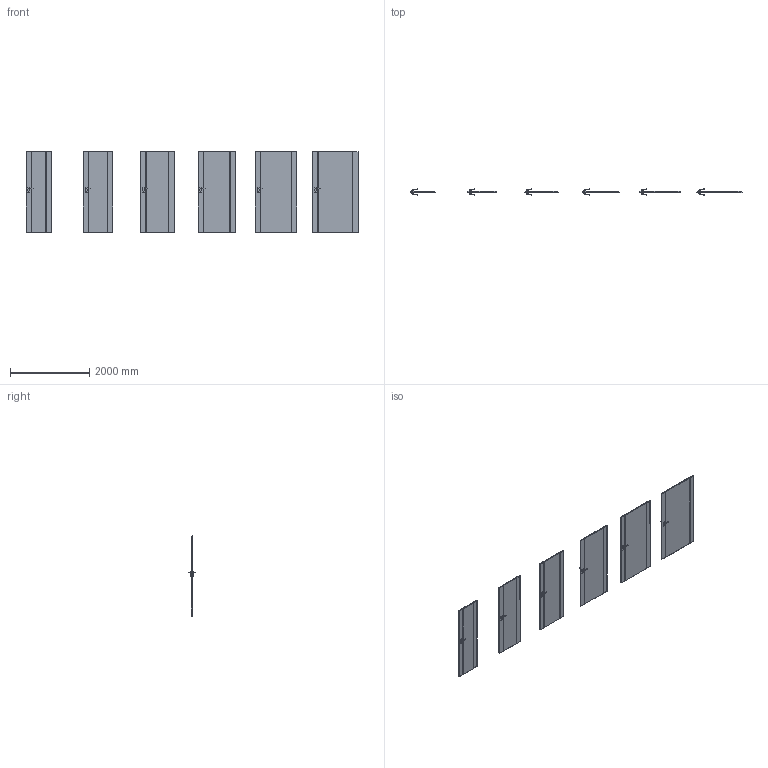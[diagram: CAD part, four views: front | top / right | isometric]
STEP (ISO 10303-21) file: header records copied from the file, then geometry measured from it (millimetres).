
FILE_DESCRIPTION(/* description */ (''),/* implementation_level */ '2;1');
FILE_NAME(/* name */ '049674_A_2-Skrzydło VECTOR A_ polska norma _PN__ przylgowe..stp',/* time_stamp */ '2024-02-07T08:12:11+01:00',/* author */ (''),/* organization */ (''),/* preprocessor_version */ 'ST-DEVELOPER v16',/* originating_system */ 'SIEMENS PLM Software NX 11.0',/* authorisation */ '');
FILE_SCHEMA (('AUTOMOTIVE_DESIGN { 1 0 10303 214 3 1 1 1 }'));
Length unit declared in the file: millimetre
Products named in the file (1): bkni2F140504h4o0
Bounding box: 8394 x 153.27 x 2030 mm (x, y, z)
Volume: 418357459.2 mm3; surface area: 23488587.4 mm2
Topology: 30 solids, 30 shells, 1272 faces, 3108 edges, 1776 vertices
Faces by surface type: plane 552, cylinder 360, bspline 192, sphere 168
Entity records: 42628 total; most frequent: CARTESIAN_POINT 14413, ORIENTED_EDGE 5880, DIRECTION 5654, EDGE_CURVE 2940, AXIS2_PLACEMENT_3D 1993, VERTEX_POINT 1776, LINE 1668, VECTOR 1668
